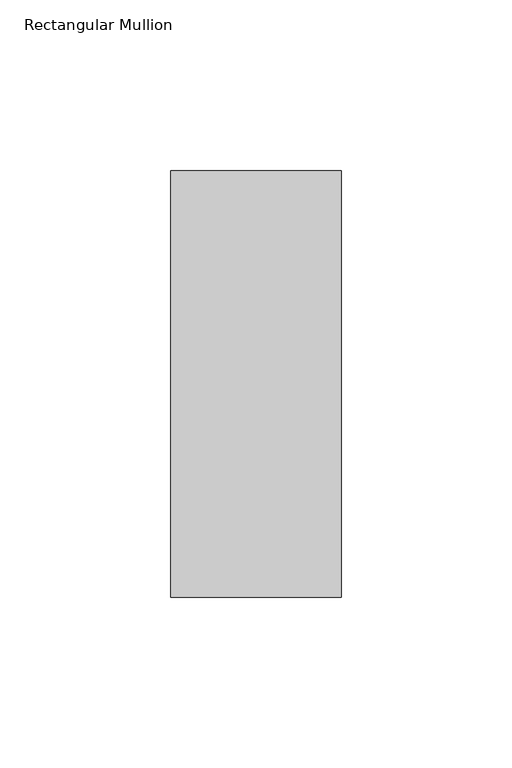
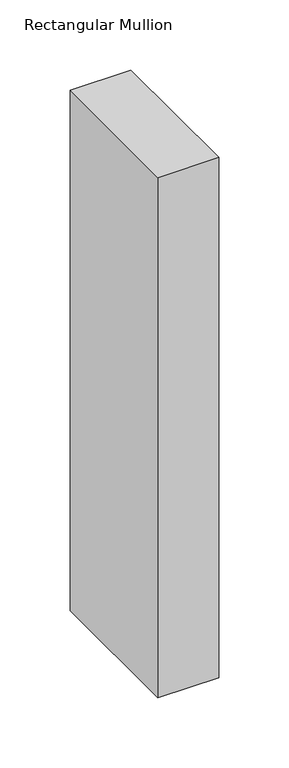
"""IFC4 building model written with IfcOpenShell, lengths in millimetres: member geometry, Rectangular Mullion : DucoSun Cubic Design profile 50x125 for louvre 300."""

from ifc_helpers import new_model, si_unit, frame, origin, place, context, project, spatial, polyline, outline, extrude, source, transform, mapped, element, save


def rectangular_mullion_9a2d486a(model_context):
    return source(origin(), model_context, "Body", "SweptSolid", [
        extrude(outline(polyline([(0.0, -87.5), (0.0, -212.5), (-50.0, -212.5), (-50.0, -87.5), (0.0, -87.5)])), frame((0.0, 0.0, -452.4), z_axis=(0.0, 0.0, 1.0), x_axis=(1.0, 0.0, 0.0)), (0.0, 0.0, 1.0), 452.4),
    ])


if __name__ == "__main__":
    model = new_model("IFC4")
    model_context = context("Model", 3, world=origin())
    ifc_project = project(units=[si_unit("LENGTHUNIT", "METRE", prefix="MILLI")], contexts=[model_context])
    site = spatial("IfcSite", under=ifc_project)
    building = spatial("IfcBuilding", under=site)
    placement = place(None, origin())
    rectangular_mullion_shape = rectangular_mullion_9a2d486a(model_context)
    element("IfcMember", 1, ObjectType="Rectangular Mullion : DucoSun Cubic Design profile 50x125 for louvre 300", at=placement, inside=building, context=model_context, shape_type="MappedRepresentation", body=[
        mapped(rectangular_mullion_shape, transform((0.0, 0.0, 0.0), x_axis=(1.0, 0.0, 0.0), y_axis=(0.0, 1.0, 0.0), z_axis=(0.0, 0.0, 1.0))),
    ])
    save(model, "model.ifc")
